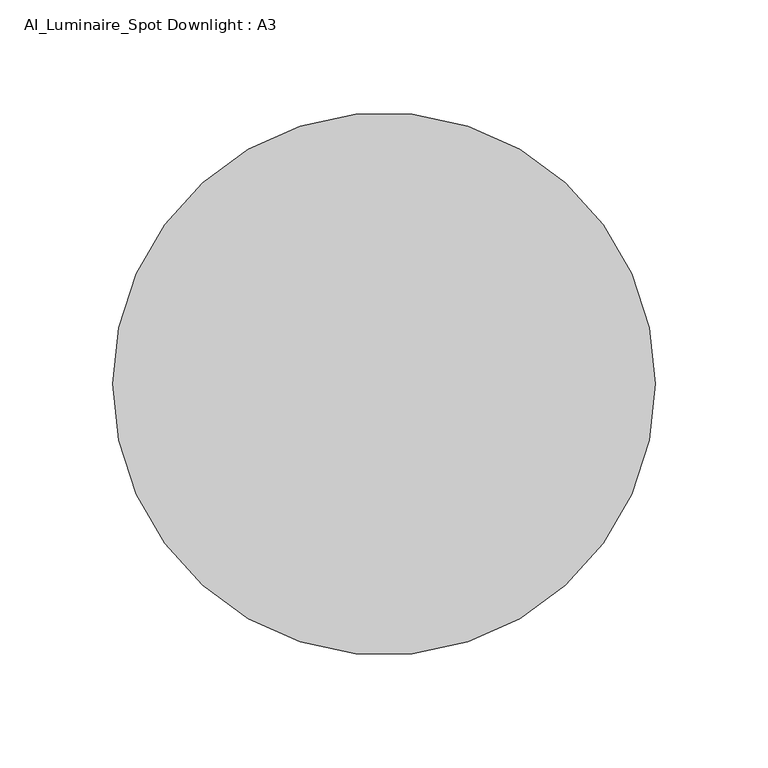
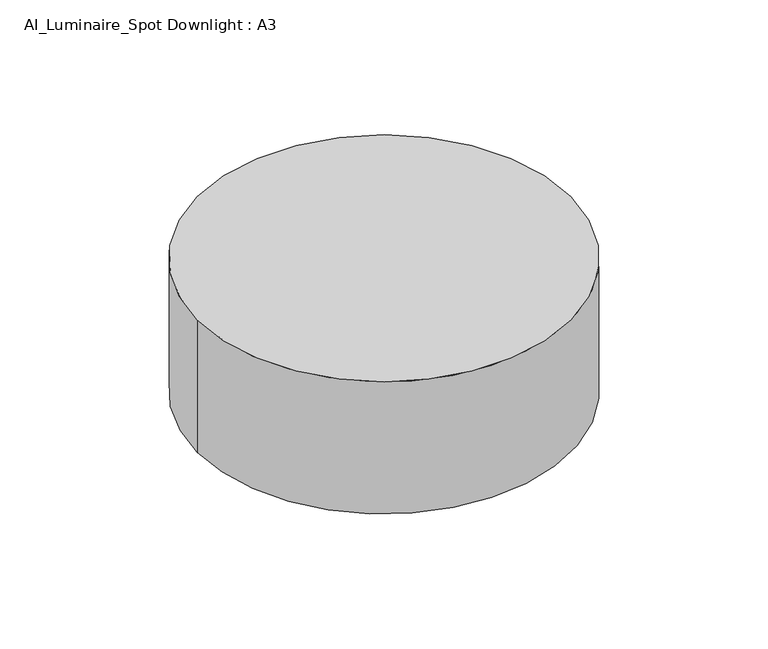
"""IFC4 building model written with IfcOpenShell, lengths in millimetres: light fixture geometry, AI_Luminaire_Spot Downlight : A3."""

from ifc_helpers import new_model, si_unit, point, frame, origin, origin_2d, place, context, project, spatial, circle_curve, trimmed, segment, composite_curve, outline, extrude, source, transform, mapped, element, save


def ai_luminaire_spot_downlight_a3_0014797d(model_context):
    return source(origin(), model_context, "Body", "SweptSolid", [
        extrude(outline(composite_curve([segment(trimmed(circle_curve(origin_2d(), 120.0), [point((-120.0, 0.0))], [point((120.0, 0.0))], False, "CARTESIAN"), True, "CONTINUOUS"), segment(trimmed(circle_curve(origin_2d(), 120.0), [point((120.0, 0.0))], [point((-120.0, 0.0))], False, "CARTESIAN"), True, "CONTINUOUS")], self_intersect=False)), frame((0.0, 0.0, -90.0), z_axis=(0.0, 0.0, 1.0), x_axis=(1.0, 0.0, 0.0)), (0.0, 0.0, 1.0), 90.0),
    ])


if __name__ == "__main__":
    model = new_model("IFC4")
    model_context = context("Model", 3, world=origin())
    ifc_project = project(units=[si_unit("LENGTHUNIT", "METRE", prefix="MILLI")], contexts=[model_context])
    site = spatial("IfcSite", under=ifc_project)
    building = spatial("IfcBuilding", under=site)
    placement = place(None, origin())
    ai_luminaire_spot_downlight_a3_shape = ai_luminaire_spot_downlight_a3_0014797d(model_context)
    element("IfcLightFixture", 1, ObjectType="AI_Luminaire_Spot Downlight : A3", at=placement, inside=building, context=model_context, shape_type="MappedRepresentation", body=[
        mapped(ai_luminaire_spot_downlight_a3_shape, transform((0.0, 0.0, 0.0), x_axis=(1.0, 0.0, 0.0), y_axis=(0.0, 1.0, 0.0), z_axis=(0.0, 0.0, 1.0))),
    ])
    save(model, "model.ifc")
